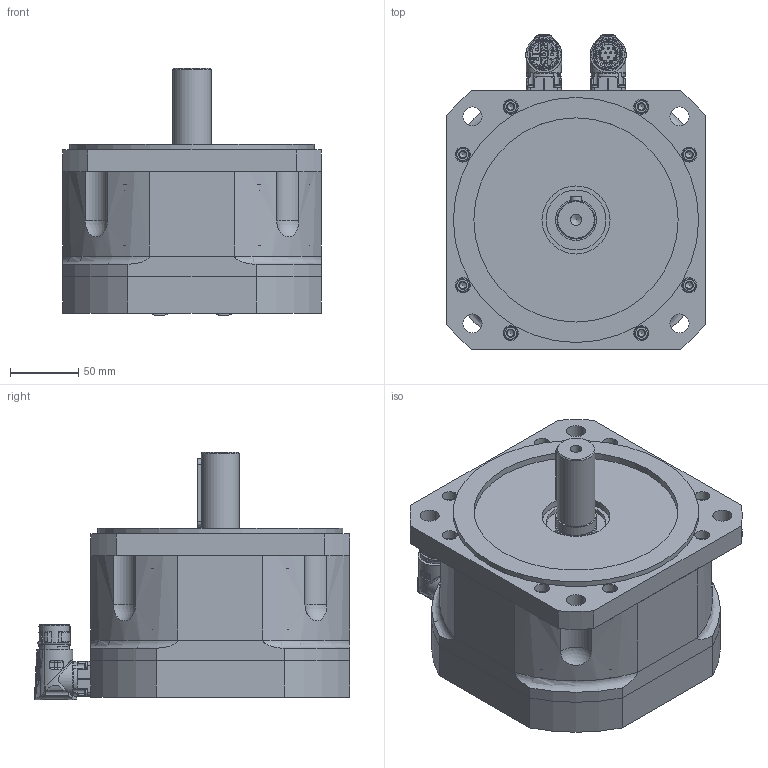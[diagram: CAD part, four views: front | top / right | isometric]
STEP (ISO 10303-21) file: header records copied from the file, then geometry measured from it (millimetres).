
FILE_DESCRIPTION(/* description */ (''),/* implementation_level */ '2;1');
FILE_NAME(/* name */ 'C:\Users\Public\Documents\Autodesk\Inventor LT 2014\Workspace\Motori Sito WEB\TG_COMPATTI\STEP_COMPATTI\DSM5_60_x097.stp',/* time_stamp */ '2021-03-31T14:48:23+02:00',/* author */ ('marcor'),/* organization */ (''),/* preprocessor_version */ 'ST-DEVELOPER v15.2',/* originating_system */ 'Autodesk Inventor LT ',/* authorisation */ '');
FILE_SCHEMA (('AUTOMOTIVE_DESIGN { 1 0 10303 214 3 1 1 }'));
Products named in the file (1): DSM5_60_x097
Bounding box: 190 x 231.5 x 181.91 mm (x, y, z)
Volume: 3870920.5 mm3; surface area: 397351.7 mm2
Topology: 24 solids, 34 shells, 1730 faces, 4499 edges, 2989 vertices
Faces by surface type: plane 651, cylinder 472, cone 379, bspline 113, torus 83, sphere 32
Full cylindrical faces by diameter (mm): 1.2 x12, 2.224 x8, 2.233 x6, 2.5 x8, 2.88 x8, 3.26 x8, 4.5 x2, 4.8 x8, 4.917 x20, 5.5 x3, 5.9 x2, 6 x20, 6.5 x20, 8.376 x1, 10 x20, 11 x20, 14 x4, 15.2 x1, 17.4 x3, 18 x1, 19.8 x1, 21.15 x4, 21.6 x1, 21.653 x2, 24.3 x2, 28 x1, 28.6 x1, 29.9 x1, 30 x1, 44 x1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
Entity records: 59686 total; most frequent: CARTESIAN_POINT 19292, ORIENTED_EDGE 7962, DIRECTION 7559, EDGE_CURVE 3981, AXIS2_PLACEMENT_3D 3048, VERTEX_POINT 2855, EDGE_LOOP 2340, ADVANCED_FACE 1730
